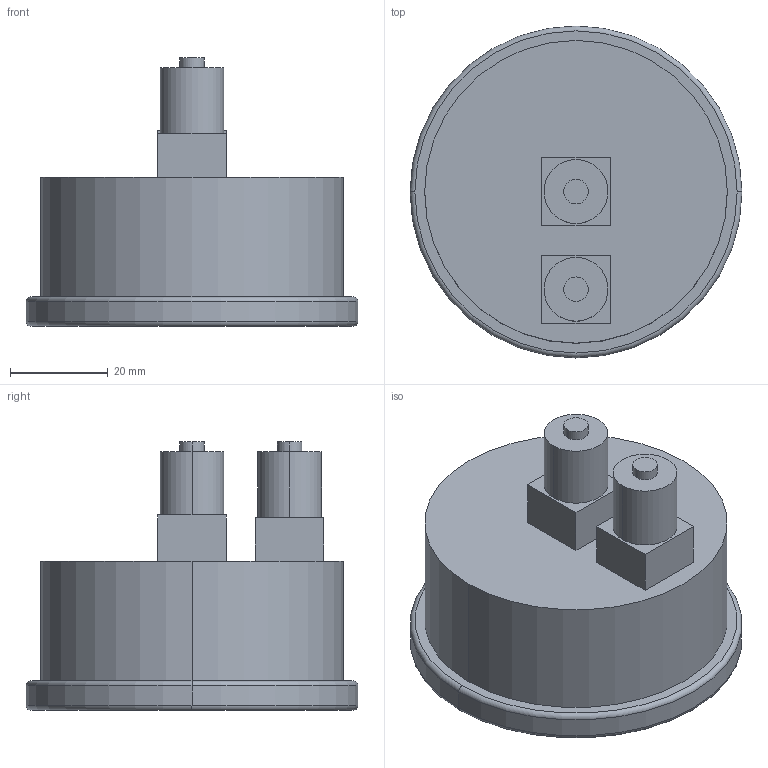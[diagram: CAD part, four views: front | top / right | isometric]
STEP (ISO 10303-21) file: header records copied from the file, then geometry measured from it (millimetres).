
FILE_DESCRIPTION (( 'STEP AP214' ), '1' );
FILE_NAME ('Manometr_puszkowy_roznicowy_x_0_3D_AFRISO.STEP', '2022-12-15T12:31:51', ( '' ), ( '' ), 'SwSTEP 2.0', 'SolidWorks 2022', '' );
FILE_SCHEMA (( 'AUTOMOTIVE_DESIGN' ));
Length unit declared in the file: millimetre
Products named in the file (1): Manometr_puszkowy_roznicowy_x_0_3D_AFRISO
Bounding box: 68 x 68 x 55 mm (x, y, z)
Volume: 102942.5 mm3; surface area: 15322.4 mm2
Topology: 1 solids, 1 shells, 33 faces, 68 edges, 44 vertices
Faces by surface type: plane 17, cylinder 12, torus 4
Entity records: 916 total; most frequent: DIRECTION 168, CARTESIAN_POINT 146, ORIENTED_EDGE 136, EDGE_CURVE 68, AXIS2_PLACEMENT_3D 66, VERTEX_POINT 44, EDGE_LOOP 40, LINE 36
